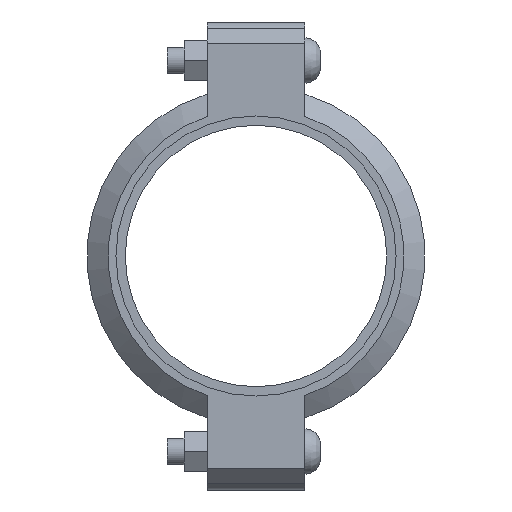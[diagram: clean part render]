
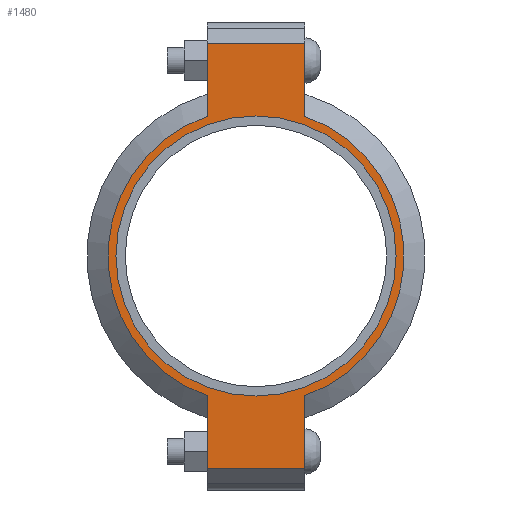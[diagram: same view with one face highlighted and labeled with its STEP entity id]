
A CAD part, left-side view. The second image highlights one B-rep face of the part: STEP entity #1480.
In plain terms, the highlighted planar face has unit normal (-1, 0, 0) as drawn and (0, 0, 1) by its records, which use the part's own axes.
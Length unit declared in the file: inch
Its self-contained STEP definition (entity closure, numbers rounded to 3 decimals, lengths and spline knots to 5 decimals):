
#160=LINE('',#2549,#251);
#168=LINE('',#2585,#259);
#175=LINE('',#2606,#266);
#184=LINE('',#2638,#275);
#185=LINE('',#2642,#276);
#186=LINE('',#2644,#277);
#251=VECTOR('',#2059,0.3937);
#259=VECTOR('',#2075,0.3937);
#266=VECTOR('',#2094,0.3937);
#275=VECTOR('',#2119,0.3937);
#276=VECTOR('',#2124,0.3937);
#277=VECTOR('',#2125,0.3937);
#329=FACE_BOUND('',#489,.T.);
#393=FACE_OUTER_BOUND('',#488,.T.);
#488=EDGE_LOOP('',(#1215,#1216,#1217,#1218,#1219,#1220,#1221,#1222));
#489=EDGE_LOOP('',(#1223));
#586=CIRCLE('',#1723,3.5);
#587=CIRCLE('',#1724,3.5);
#588=CIRCLE('',#1725,3.3125);
#691=VERTEX_POINT('',#2546);
#692=VERTEX_POINT('',#2548);
#703=VERTEX_POINT('',#2580);
#704=VERTEX_POINT('',#2584);
#711=VERTEX_POINT('',#2603);
#712=VERTEX_POINT('',#2605);
#722=VERTEX_POINT('',#2641);
#723=VERTEX_POINT('',#2643);
#724=VERTEX_POINT('',#2646);
#855=EDGE_CURVE('',#692,#691,#160,.T.);
#869=EDGE_CURVE('',#704,#703,#168,.T.);
#879=EDGE_CURVE('',#712,#711,#175,.T.);
#894=EDGE_CURVE('',#704,#691,#184,.T.);
#895=EDGE_CURVE('',#703,#712,#586,.T.);
#896=EDGE_CURVE('',#722,#711,#185,.T.);
#897=EDGE_CURVE('',#722,#723,#186,.T.);
#898=EDGE_CURVE('',#723,#692,#587,.T.);
#899=EDGE_CURVE('',#724,#724,#588,.T.);
#1215=ORIENTED_EDGE('',*,*,#894,.F.);
#1216=ORIENTED_EDGE('',*,*,#869,.T.);
#1217=ORIENTED_EDGE('',*,*,#895,.T.);
#1218=ORIENTED_EDGE('',*,*,#879,.T.);
#1219=ORIENTED_EDGE('',*,*,#896,.F.);
#1220=ORIENTED_EDGE('',*,*,#897,.T.);
#1221=ORIENTED_EDGE('',*,*,#898,.T.);
#1222=ORIENTED_EDGE('',*,*,#855,.T.);
#1223=ORIENTED_EDGE('',*,*,#899,.T.);
#1334=PLANE('',#1722);
#1480=ADVANCED_FACE('',(#393,#329),#1334,.T.);
#1722=AXIS2_PLACEMENT_3D('',#2639,#2120,#2121);
#1723=AXIS2_PLACEMENT_3D('',#2640,#2122,#2123);
#1724=AXIS2_PLACEMENT_3D('',#2645,#2126,#2127);
#1725=AXIS2_PLACEMENT_3D('',#2647,#2128,#2129);
#2059=DIRECTION('',(-1.,0.,0.));
#2075=DIRECTION('',(1.,0.,0.));
#2094=DIRECTION('',(1.,0.,0.));
#2119=DIRECTION('',(0.,1.,0.));
#2120=DIRECTION('center_axis',(0.,0.,1.));
#2121=DIRECTION('ref_axis',(1.,0.,0.));
#2122=DIRECTION('center_axis',(0.,0.,1.));
#2123=DIRECTION('ref_axis',(-1.,0.,0.));
#2124=DIRECTION('',(0.,-1.,0.));
#2125=DIRECTION('',(-1.,0.,0.));
#2126=DIRECTION('center_axis',(0.,0.,1.));
#2127=DIRECTION('ref_axis',(-1.,0.,0.));
#2128=DIRECTION('center_axis',(0.,0.,-1.));
#2129=DIRECTION('ref_axis',(-1.,0.,0.));
#2546=CARTESIAN_POINT('',(-5.035,1.156,1.065));
#2548=CARTESIAN_POINT('',(-3.30358,1.156,1.065));
#2549=CARTESIAN_POINT('',(-5.535,1.156,1.065));
#2580=CARTESIAN_POINT('',(-3.30358,-1.156,1.065));
#2584=CARTESIAN_POINT('',(-5.035,-1.156,1.065));
#2585=CARTESIAN_POINT('',(5.535,-1.156,1.065));
#2603=CARTESIAN_POINT('',(5.035,-1.156,1.065));
#2605=CARTESIAN_POINT('',(3.30358,-1.156,1.065));
#2606=CARTESIAN_POINT('',(5.535,-1.156,1.065));
#2638=CARTESIAN_POINT('',(-5.035,0.578,1.065));
#2639=CARTESIAN_POINT('Origin',(0.,0.,1.065));
#2640=CARTESIAN_POINT('Origin',(0.,0.,1.065));
#2641=CARTESIAN_POINT('',(5.035,1.156,1.065));
#2642=CARTESIAN_POINT('',(5.035,-0.578,1.065));
#2643=CARTESIAN_POINT('',(3.30358,1.156,1.065));
#2644=CARTESIAN_POINT('',(-5.535,1.156,1.065));
#2645=CARTESIAN_POINT('Origin',(0.,0.,1.065));
#2646=CARTESIAN_POINT('',(3.3125,0.,1.065));
#2647=CARTESIAN_POINT('Origin',(0.,0.,1.065));
